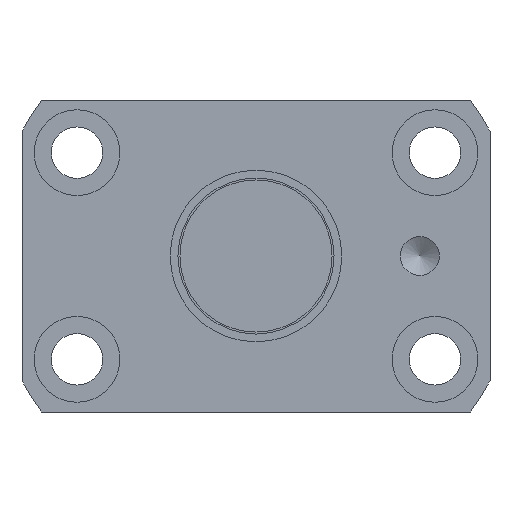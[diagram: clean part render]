
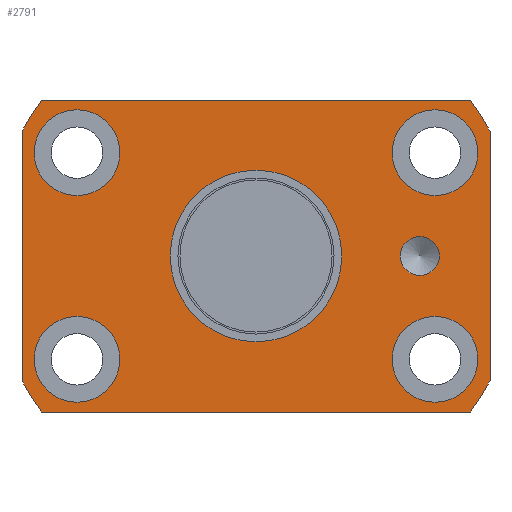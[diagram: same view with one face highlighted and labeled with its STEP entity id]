
A CAD part, left-side view. The second image highlights one B-rep face of the part: STEP entity #2791.
In plain terms, the highlighted planar face has unit normal (-1, 0, 0).
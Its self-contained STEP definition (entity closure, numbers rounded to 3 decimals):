
#9 = DIRECTION ( 'NONE',  ( -1., 0., 0. ) ) ;
#30 = EDGE_LOOP ( 'NONE', ( #591 ) ) ;
#39 = DIRECTION ( 'NONE',  ( 0., 1., 0. ) ) ;
#60 = DIRECTION ( 'NONE',  ( 0., 0., 1. ) ) ;
#67 = FACE_BOUND ( 'NONE', #1067, .T. ) ;
#73 = ORIENTED_EDGE ( 'NONE', *, *, #2355, .F. ) ;
#75 = ORIENTED_EDGE ( 'NONE', *, *, #1483, .F. ) ;
#78 = VERTEX_POINT ( 'NONE', #1597 ) ;
#90 = CIRCLE ( 'NONE', #3172, 5.5 ) ;
#98 = VERTEX_POINT ( 'NONE', #2938 ) ;
#106 = CARTESIAN_POINT ( 'NONE',  ( 0., -30., -20. ) ) ;
#125 = CIRCLE ( 'NONE', #2447, 34. ) ;
#133 = CIRCLE ( 'NONE', #2233, 34. ) ;
#171 = EDGE_CURVE ( 'NONE', #2943, #78, #3186, .T. ) ;
#192 = CIRCLE ( 'NONE', #941, 34. ) ;
#213 = DIRECTION ( 'NONE',  ( 0., 1., 0. ) ) ;
#231 = ORIENTED_EDGE ( 'NONE', *, *, #1945, .T. ) ;
#240 = CARTESIAN_POINT ( 'NONE',  ( 0., -17.45, 13.25 ) ) ;
#247 = ORIENTED_EDGE ( 'NONE', *, *, #171, .F. ) ;
#248 = CARTESIAN_POINT ( 'NONE',  ( 0., 0., 0. ) ) ;
#273 = DIRECTION ( 'NONE',  ( -1., 0., 0. ) ) ;
#275 = LINE ( 'NONE', #2095, #2786 ) ;
#288 = CARTESIAN_POINT ( 'NONE',  ( 0., 28.45, 13.25 ) ) ;
#302 = CARTESIAN_POINT ( 'NONE',  ( 0., 30., 20. ) ) ;
#306 = EDGE_CURVE ( 'NONE', #1345, #2943, #125, .T. ) ;
#312 = DIRECTION ( 'NONE',  ( 1., 0., 0. ) ) ;
#322 = CARTESIAN_POINT ( 'NONE',  ( 0., 30., 16. ) ) ;
#450 = CIRCLE ( 'NONE', #3223, 34. ) ;
#461 = EDGE_LOOP ( 'NONE', ( #2919 ) ) ;
#501 = DIRECTION ( 'NONE',  ( 1., 0., 0. ) ) ;
#530 = DIRECTION ( 'NONE',  ( 0., 1., 0. ) ) ;
#591 = ORIENTED_EDGE ( 'NONE', *, *, #2970, .T. ) ;
#601 = VERTEX_POINT ( 'NONE', #1598 ) ;
#635 = CARTESIAN_POINT ( 'NONE',  ( 0., -21., 2.5 ) ) ;
#769 = DIRECTION ( 'NONE',  ( 1., 0., 0. ) ) ;
#775 = AXIS2_PLACEMENT_3D ( 'NONE', #1773, #501, #1069 ) ;
#807 = FACE_BOUND ( 'NONE', #30, .T. ) ;
#844 = CARTESIAN_POINT ( 'NONE',  ( 0., 15.5, 0. ) ) ;
#848 = DIRECTION ( 'NONE',  ( 0., 0., 1. ) ) ;
#896 = CIRCLE ( 'NONE', #3281, 11. ) ;
#913 = ORIENTED_EDGE ( 'NONE', *, *, #3101, .F. ) ;
#941 = AXIS2_PLACEMENT_3D ( 'NONE', #2800, #1476, #213 ) ;
#1003 = VERTEX_POINT ( 'NONE', #322 ) ;
#1048 = DIRECTION ( 'NONE',  ( 0., 0., -1. ) ) ;
#1067 = EDGE_LOOP ( 'NONE', ( #2423 ) ) ;
#1069 = DIRECTION ( 'NONE',  ( 0., 1., 0. ) ) ;
#1082 = DIRECTION ( 'NONE',  ( 0., 1., 0. ) ) ;
#1088 = FACE_BOUND ( 'NONE', #461, .T. ) ;
#1135 = VERTEX_POINT ( 'NONE', #2783 ) ;
#1153 = ORIENTED_EDGE ( 'NONE', *, *, #2999, .F. ) ;
#1268 = EDGE_CURVE ( 'NONE', #1003, #2310, #133, .T. ) ;
#1287 = DIRECTION ( 'NONE',  ( 0., 1., 0. ) ) ;
#1311 = VERTEX_POINT ( 'NONE', #2199 ) ;
#1314 = AXIS2_PLACEMENT_3D ( 'NONE', #1331, #9, #60 ) ;
#1331 = CARTESIAN_POINT ( 'NONE',  ( 0., -21., 0. ) ) ;
#1345 = VERTEX_POINT ( 'NONE', #2090 ) ;
#1380 = CIRCLE ( 'NONE', #1314, 2.5 ) ;
#1476 = DIRECTION ( 'NONE',  ( 1., 0., 0. ) ) ;
#1483 = EDGE_CURVE ( 'NONE', #78, #601, #450, .T. ) ;
#1543 = DIRECTION ( 'NONE',  ( 1., 0., 0. ) ) ;
#1545 = DIRECTION ( 'NONE',  ( 0., 0., 1. ) ) ;
#1559 = VERTEX_POINT ( 'NONE', #288 ) ;
#1580 = VERTEX_POINT ( 'NONE', #240 ) ;
#1590 = ORIENTED_EDGE ( 'NONE', *, *, #1268, .F. ) ;
#1597 = CARTESIAN_POINT ( 'NONE',  ( 0., 27.495, -20. ) ) ;
#1598 = CARTESIAN_POINT ( 'NONE',  ( 0., 30., -16. ) ) ;
#1773 = CARTESIAN_POINT ( 'NONE',  ( 0., 22.95, 13.25 ) ) ;
#1832 = FACE_BOUND ( 'NONE', #2393, .T. ) ;
#1854 = CARTESIAN_POINT ( 'NONE',  ( 0., 27.495, 20. ) ) ;
#1869 = FACE_OUTER_BOUND ( 'NONE', #1953, .T. ) ;
#1874 = CARTESIAN_POINT ( 'NONE',  ( 0., 30., -20. ) ) ;
#1915 = VERTEX_POINT ( 'NONE', #3247 ) ;
#1923 = EDGE_LOOP ( 'NONE', ( #3062 ) ) ;
#1934 = VERTEX_POINT ( 'NONE', #635 ) ;
#1945 = EDGE_CURVE ( 'NONE', #1580, #1580, #2678, .T. ) ;
#1953 = EDGE_LOOP ( 'NONE', ( #247, #3221, #1153, #2084, #3267, #1590, #73, #75 ) ) ;
#1975 = AXIS2_PLACEMENT_3D ( 'NONE', #844, #273, #1545 ) ;
#2047 = FACE_BOUND ( 'NONE', #2891, .T. ) ;
#2082 = CARTESIAN_POINT ( 'NONE',  ( 0., -22.95, -13.25 ) ) ;
#2084 = ORIENTED_EDGE ( 'NONE', *, *, #3333, .F. ) ;
#2090 = CARTESIAN_POINT ( 'NONE',  ( 0., -30., -16. ) ) ;
#2095 = CARTESIAN_POINT ( 'NONE',  ( 0., -30., 20. ) ) ;
#2128 = DIRECTION ( 'NONE',  ( 1., 0., 0. ) ) ;
#2137 = FACE_BOUND ( 'NONE', #1923, .T. ) ;
#2185 = DIRECTION ( 'NONE',  ( 1., 0., 0. ) ) ;
#2199 = CARTESIAN_POINT ( 'NONE',  ( 0., -17.45, -13.25 ) ) ;
#2233 = AXIS2_PLACEMENT_3D ( 'NONE', #2290, #1543, #3343 ) ;
#2251 = CIRCLE ( 'NONE', #3116, 5.5 ) ;
#2290 = CARTESIAN_POINT ( 'NONE',  ( 0., 0., 0. ) ) ;
#2310 = VERTEX_POINT ( 'NONE', #1854 ) ;
#2311 = DIRECTION ( 'NONE',  ( 1., 0., 0. ) ) ;
#2315 = DIRECTION ( 'NONE',  ( 0., -1., 0. ) ) ;
#2342 = DIRECTION ( 'NONE',  ( 0., 1., 0. ) ) ;
#2351 = LINE ( 'NONE', #302, #3005 ) ;
#2354 = LINE ( 'NONE', #1874, #2890 ) ;
#2355 = EDGE_CURVE ( 'NONE', #601, #1003, #2354, .T. ) ;
#2388 = VECTOR ( 'NONE', #2871, 1000. ) ;
#2393 = EDGE_LOOP ( 'NONE', ( #231 ) ) ;
#2423 = ORIENTED_EDGE ( 'NONE', *, *, #2713, .T. ) ;
#2447 = AXIS2_PLACEMENT_3D ( 'NONE', #248, #2311, #3348 ) ;
#2580 = CARTESIAN_POINT ( 'NONE',  ( 0., 22.95, -13.25 ) ) ;
#2636 = VERTEX_POINT ( 'NONE', #3048 ) ;
#2678 = CIRCLE ( 'NONE', #3003, 5.5 ) ;
#2695 = EDGE_CURVE ( 'NONE', #2310, #1135, #2351, .T. ) ;
#2713 = EDGE_CURVE ( 'NONE', #1559, #1559, #3328, .T. ) ;
#2738 = EDGE_CURVE ( 'NONE', #1311, #1311, #90, .T. ) ;
#2783 = CARTESIAN_POINT ( 'NONE',  ( 0., -27.495, 20. ) ) ;
#2786 = VECTOR ( 'NONE', #1048, 1000. ) ;
#2791 = ADVANCED_FACE ( 'NONE', ( #2047, #807, #1832, #67, #1088, #1869, #2137 ), #3173, .T. ) ;
#2800 = CARTESIAN_POINT ( 'NONE',  ( 0., 0., 0. ) ) ;
#2850 = CARTESIAN_POINT ( 'NONE',  ( 0., 0., 0. ) ) ;
#2871 = DIRECTION ( 'NONE',  ( 0., 1., 0. ) ) ;
#2887 = CARTESIAN_POINT ( 'NONE',  ( 0., -22.95, 13.25 ) ) ;
#2890 = VECTOR ( 'NONE', #848, 1000. ) ;
#2891 = EDGE_LOOP ( 'NONE', ( #913 ) ) ;
#2904 = DIRECTION ( 'NONE',  ( 1., 0., 0. ) ) ;
#2919 = ORIENTED_EDGE ( 'NONE', *, *, #2738, .T. ) ;
#2920 = CARTESIAN_POINT ( 'NONE',  ( 0., 0., 0. ) ) ;
#2938 = CARTESIAN_POINT ( 'NONE',  ( 0., 11., 0. ) ) ;
#2943 = VERTEX_POINT ( 'NONE', #3162 ) ;
#2970 = EDGE_CURVE ( 'NONE', #1915, #1915, #2251, .T. ) ;
#2999 = EDGE_CURVE ( 'NONE', #2636, #1345, #275, .T. ) ;
#3003 = AXIS2_PLACEMENT_3D ( 'NONE', #2887, #2185, #1082 ) ;
#3005 = VECTOR ( 'NONE', #2315, 1000. ) ;
#3048 = CARTESIAN_POINT ( 'NONE',  ( 0., -30., 16. ) ) ;
#3062 = ORIENTED_EDGE ( 'NONE', *, *, #3125, .T. ) ;
#3101 = EDGE_CURVE ( 'NONE', #1934, #1934, #1380, .T. ) ;
#3116 = AXIS2_PLACEMENT_3D ( 'NONE', #2580, #312, #2342 ) ;
#3125 = EDGE_CURVE ( 'NONE', #98, #98, #896, .T. ) ;
#3162 = CARTESIAN_POINT ( 'NONE',  ( 0., -27.495, -20. ) ) ;
#3172 = AXIS2_PLACEMENT_3D ( 'NONE', #2082, #769, #1287 ) ;
#3173 = PLANE ( 'NONE',  #1975 ) ;
#3186 = LINE ( 'NONE', #106, #2388 ) ;
#3221 = ORIENTED_EDGE ( 'NONE', *, *, #306, .F. ) ;
#3223 = AXIS2_PLACEMENT_3D ( 'NONE', #2920, #2904, #39 ) ;
#3247 = CARTESIAN_POINT ( 'NONE',  ( 0., 28.45, -13.25 ) ) ;
#3267 = ORIENTED_EDGE ( 'NONE', *, *, #2695, .F. ) ;
#3281 = AXIS2_PLACEMENT_3D ( 'NONE', #2850, #2128, #530 ) ;
#3328 = CIRCLE ( 'NONE', #775, 5.5 ) ;
#3333 = EDGE_CURVE ( 'NONE', #1135, #2636, #192, .T. ) ;
#3343 = DIRECTION ( 'NONE',  ( 0., 1., 0. ) ) ;
#3348 = DIRECTION ( 'NONE',  ( 0., 1., 0. ) ) ;
